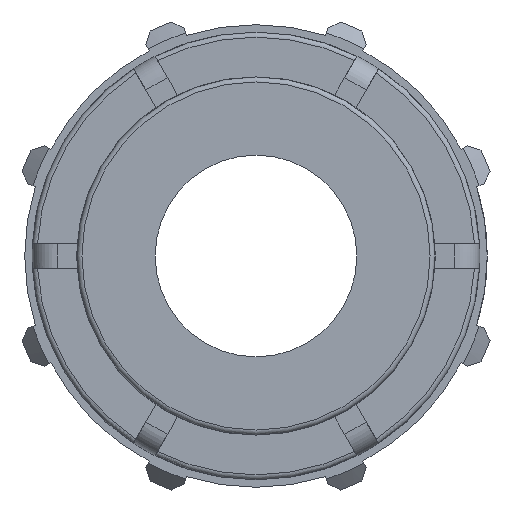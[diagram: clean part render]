
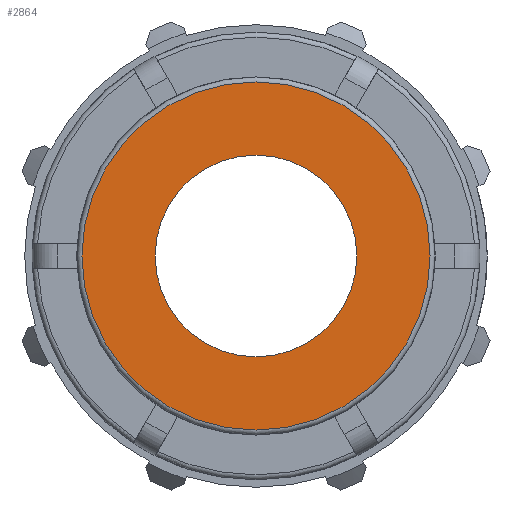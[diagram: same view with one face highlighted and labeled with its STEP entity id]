
A CAD part, left-side view. The second image highlights one B-rep face of the part: STEP entity #2864.
In plain terms, the highlighted planar face has unit normal (-1, 0, 0).
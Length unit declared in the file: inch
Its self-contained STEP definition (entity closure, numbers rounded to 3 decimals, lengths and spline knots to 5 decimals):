
#66=FACE_BOUND('',#814,.T.);
#549=PLANE('',#3106);
#659=FACE_OUTER_BOUND('',#813,.T.);
#813=EDGE_LOOP('',(#2161,#2162));
#814=EDGE_LOOP('',(#2163,#2164));
#973=CIRCLE('',#3103,1.32293);
#974=CIRCLE('',#3104,1.32293);
#976=CIRCLE('',#3107,0.76677);
#977=CIRCLE('',#3108,0.76677);
#1224=VERTEX_POINT('',#4875);
#1225=VERTEX_POINT('',#4877);
#1226=VERTEX_POINT('',#4882);
#1227=VERTEX_POINT('',#4883);
#1570=EDGE_CURVE('',#1224,#1225,#973,.T.);
#1571=EDGE_CURVE('',#1225,#1224,#974,.T.);
#1573=EDGE_CURVE('',#1226,#1227,#976,.T.);
#1574=EDGE_CURVE('',#1227,#1226,#977,.T.);
#2161=ORIENTED_EDGE('',*,*,#1571,.F.);
#2162=ORIENTED_EDGE('',*,*,#1570,.F.);
#2163=ORIENTED_EDGE('',*,*,#1573,.T.);
#2164=ORIENTED_EDGE('',*,*,#1574,.T.);
#2864=ADVANCED_FACE('',(#659,#66),#549,.T.);
#3103=AXIS2_PLACEMENT_3D('',#4878,#3631,#3632);
#3104=AXIS2_PLACEMENT_3D('',#4879,#3633,#3634);
#3106=AXIS2_PLACEMENT_3D('',#4881,#3637,#3638);
#3107=AXIS2_PLACEMENT_3D('',#4884,#3639,#3640);
#3108=AXIS2_PLACEMENT_3D('',#4885,#3641,#3642);
#3631=DIRECTION('center_axis',(1.,0.,0.));
#3632=DIRECTION('ref_axis',(0.,-1.,0.));
#3633=DIRECTION('center_axis',(1.,0.,0.));
#3634=DIRECTION('ref_axis',(0.,-1.,0.));
#3637=DIRECTION('center_axis',(-1.,0.,0.));
#3638=DIRECTION('ref_axis',(0.,0.,1.));
#3639=DIRECTION('center_axis',(1.,0.,0.));
#3640=DIRECTION('ref_axis',(0.,0.,-1.));
#3641=DIRECTION('center_axis',(1.,0.,0.));
#3642=DIRECTION('ref_axis',(0.,0.,-1.));
#4875=CARTESIAN_POINT('',(0.,0.,1.32293));
#4877=CARTESIAN_POINT('',(0.,1.32293,0.));
#4878=CARTESIAN_POINT('Origin',(0.,0.,0.));
#4879=CARTESIAN_POINT('Origin',(0.,0.,0.));
#4881=CARTESIAN_POINT('Origin',(0.,1.3608,0.));
#4882=CARTESIAN_POINT('',(0.,0.76677,0.));
#4883=CARTESIAN_POINT('',(0.,-0.76677,0.));
#4884=CARTESIAN_POINT('Origin',(0.,0.,0.));
#4885=CARTESIAN_POINT('Origin',(0.,0.,0.));
